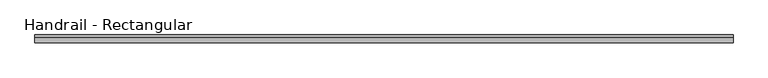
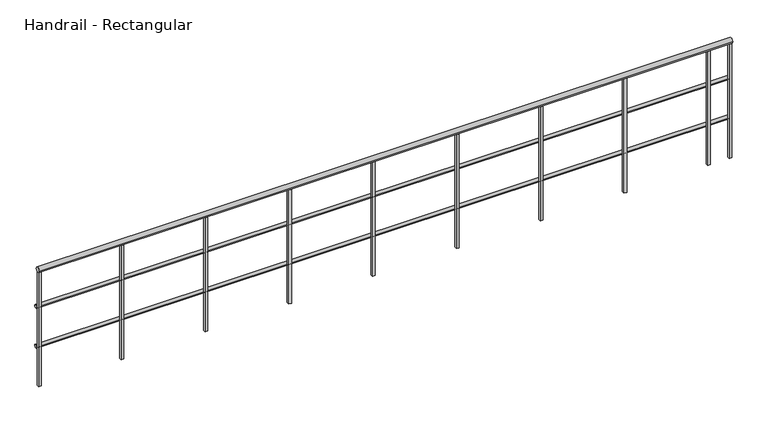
"""IFC4 building model written with IfcOpenShell, lengths in millimetres: railing geometry, Handrail - Rectangular."""

from ifc_helpers import new_model, si_unit, point, frame, frame_2d, origin, place, context, project, spatial, polyline, circle_curve, trimmed, segment, composite_curve, outline, extrude, source, transform, mapped, element, save


def handrail_rectangular_4972241b(model_context):
    return source(origin(), model_context, "Body", "SweptSolid", [
        extrude(outline(composite_curve([segment(trimmed(circle_curve(frame_2d((11970.2316867, 3644.9)), 12.7), [point((11982.9316867, 3644.9))], [point((11957.5316867, 3644.9))], False, "CARTESIAN"), True, "CONTINUOUS"), segment(trimmed(circle_curve(frame_2d((11970.2316867, 3644.9)), 12.7), [point((11957.5316867, 3644.9))], [point((11982.9316867, 3644.9))], False, "CARTESIAN"), True, "CONTINUOUS")], self_intersect=False)), frame((-11164.8589563, 0.0, 0.0), z_axis=(1.0, 0.0, 0.0), x_axis=(0.0, 1.0, 0.0)), (0.0, 0.0, 1.0), 5041.9),
        extrude(outline(composite_curve([segment(trimmed(circle_curve(frame_2d((11970.2316867, 3340.1)), 12.7), [point((11982.9316867, 3340.1))], [point((11957.5316867, 3340.1))], False, "CARTESIAN"), True, "CONTINUOUS"), segment(trimmed(circle_curve(frame_2d((11970.2316867, 3340.1)), 12.7), [point((11957.5316867, 3340.1))], [point((11982.9316867, 3340.1))], False, "CARTESIAN"), True, "CONTINUOUS")], self_intersect=False)), frame((-11164.8589563, 0.0, 0.0), z_axis=(1.0, 0.0, 0.0), x_axis=(0.0, 1.0, 0.0)), (0.0, 0.0, 1.0), 5041.9),
        extrude(outline(composite_curve([segment(trimmed(circle_curve(frame_2d((11944.8316867, 3943.35)), 19.05), [point((11963.8816867, 3943.35))], [point((11925.7816867, 3943.35))], False, "CARTESIAN"), True, "CONTINUOUS"), segment(trimmed(circle_curve(frame_2d((11944.8316867, 3943.35)), 19.05), [point((11925.7816867, 3943.35))], [point((11963.8816867, 3943.35))], False, "CARTESIAN"), True, "CONTINUOUS")], self_intersect=False)), frame((-11164.8589563, 0.0, 0.0), z_axis=(1.0, 0.0, 0.0), x_axis=(0.0, 1.0, 0.0)), (0.0, 0.0, 1.0), 5041.9),
        extrude(outline(polyline([(-6297.5839563, 11935.3066867), (-6297.5839563, 11954.3566867), (-6278.5339563, 11954.3566867), (-6278.5339563, 11935.3066867), (-6297.5839563, 11935.3066867)])), frame((0.0, 0.0, 3048.0), z_axis=(0.0, 0.0, 1.0), x_axis=(1.0, 0.0, 0.0)), (0.0, 0.0, 1.0), 876.3),
        extrude(outline(polyline([(-6907.1839563, 11935.3066867), (-6907.1839563, 11954.3566867), (-6888.1339563, 11954.3566867), (-6888.1339563, 11935.3066867), (-6907.1839563, 11935.3066867)])), frame((0.0, 0.0, 3048.0), z_axis=(0.0, 0.0, 1.0), x_axis=(1.0, 0.0, 0.0)), (0.0, 0.0, 1.0), 876.3),
        extrude(outline(polyline([(-7516.7839563, 11935.3066867), (-7516.7839563, 11954.3566867), (-7497.7339563, 11954.3566867), (-7497.7339563, 11935.3066867), (-7516.7839563, 11935.3066867)])), frame((0.0, 0.0, 3048.0), z_axis=(0.0, 0.0, 1.0), x_axis=(1.0, 0.0, 0.0)), (0.0, 0.0, 1.0), 876.3),
        extrude(outline(polyline([(-8126.3839563, 11935.3066867), (-8126.3839563, 11954.3566867), (-8107.3339563, 11954.3566867), (-8107.3339563, 11935.3066867), (-8126.3839563, 11935.3066867)])), frame((0.0, 0.0, 3048.0), z_axis=(0.0, 0.0, 1.0), x_axis=(1.0, 0.0, 0.0)), (0.0, 0.0, 1.0), 876.3),
        extrude(outline(polyline([(-8735.9839563, 11935.3066867), (-8735.9839563, 11954.3566867), (-8716.9339563, 11954.3566867), (-8716.9339563, 11935.3066867), (-8735.9839563, 11935.3066867)])), frame((0.0, 0.0, 3048.0), z_axis=(0.0, 0.0, 1.0), x_axis=(1.0, 0.0, 0.0)), (0.0, 0.0, 1.0), 876.3),
        extrude(outline(polyline([(-9345.5839563, 11935.3066867), (-9345.5839563, 11954.3566867), (-9326.5339563, 11954.3566867), (-9326.5339563, 11935.3066867), (-9345.5839563, 11935.3066867)])), frame((0.0, 0.0, 3048.0), z_axis=(0.0, 0.0, 1.0), x_axis=(1.0, 0.0, 0.0)), (0.0, 0.0, 1.0), 876.3),
        extrude(outline(polyline([(-9955.1839563, 11935.3066867), (-9955.1839563, 11954.3566867), (-9936.1339563, 11954.3566867), (-9936.1339563, 11935.3066867), (-9955.1839563, 11935.3066867)])), frame((0.0, 0.0, 3048.0), z_axis=(0.0, 0.0, 1.0), x_axis=(1.0, 0.0, 0.0)), (0.0, 0.0, 1.0), 876.3),
        extrude(outline(polyline([(-10564.7839563, 11935.3066867), (-10564.7839563, 11954.3566867), (-10545.7339563, 11954.3566867), (-10545.7339563, 11935.3066867), (-10564.7839563, 11935.3066867)])), frame((0.0, 0.0, 3048.0), z_axis=(0.0, 0.0, 1.0), x_axis=(1.0, 0.0, 0.0)), (0.0, 0.0, 1.0), 876.3),
        extrude(outline(polyline([(-6142.0089563, 11935.3066867), (-6142.0089563, 11954.3566867), (-6122.9589563, 11954.3566867), (-6122.9589563, 11935.3066867), (-6142.0089563, 11935.3066867)])), frame((0.0, 0.0, 3048.0), z_axis=(0.0, 0.0, 1.0), x_axis=(1.0, 0.0, 0.0)), (0.0, 0.0, 1.0), 876.3),
        extrude(outline(polyline([(-11164.8589563, 11935.3066867), (-11164.8589563, 11954.3566867), (-11145.8089563, 11954.3566867), (-11145.8089563, 11935.3066867), (-11164.8589563, 11935.3066867)])), frame((0.0, 0.0, 3048.0), z_axis=(0.0, 0.0, 1.0), x_axis=(1.0, 0.0, 0.0)), (0.0, 0.0, 1.0), 876.3),
    ])


if __name__ == "__main__":
    model = new_model("IFC4")
    model_context = context("Model", 3, world=origin())
    ifc_project = project(units=[si_unit("LENGTHUNIT", "METRE", prefix="MILLI")], contexts=[model_context])
    site = spatial("IfcSite", under=ifc_project)
    building = spatial("IfcBuilding", under=site)
    placement = place(None, origin())
    handrail_rectangular_shape = handrail_rectangular_4972241b(model_context)
    element("IfcRailing", 1, ObjectType="Handrail - Rectangular", at=placement, inside=building, context=model_context, shape_type="MappedRepresentation", body=[
        mapped(handrail_rectangular_shape, transform((0.0, 0.0, 0.0), x_axis=(1.0, 0.0, 0.0), y_axis=(0.0, 1.0, 0.0), z_axis=(0.0, 0.0, 1.0))),
    ])
    save(model, "model.ifc")
